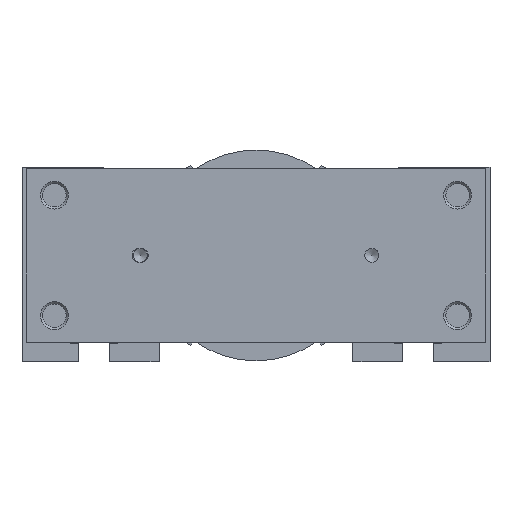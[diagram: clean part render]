
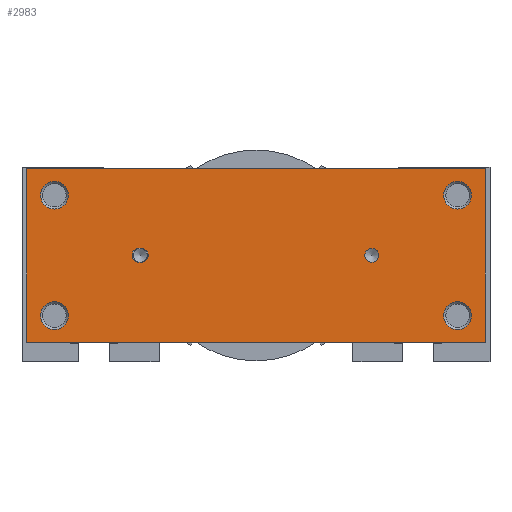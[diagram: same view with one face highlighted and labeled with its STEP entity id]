
A CAD part, left-side view. The second image highlights one B-rep face of the part: STEP entity #2983.
In plain terms, the highlighted planar face has unit normal (-1, 0, 0) as drawn and (0, 0, 1) by its records, which use the part's own axes.
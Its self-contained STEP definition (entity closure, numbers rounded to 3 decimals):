
#336=LINE('',#4946,#564);
#340=LINE('',#4955,#568);
#343=LINE('',#4961,#571);
#346=LINE('',#4967,#574);
#348=LINE('',#4998,#576);
#349=LINE('',#5002,#577);
#564=VECTOR('',#4073,1000.);
#568=VECTOR('',#4079,1000.);
#571=VECTOR('',#4084,1000.);
#574=VECTOR('',#4089,1000.);
#576=VECTOR('',#4121,1000.);
#577=VECTOR('',#4124,1000.);
#1211=ORIENTED_EDGE('',*,*,#1647,.F.);
#1212=ORIENTED_EDGE('',*,*,#1648,.F.);
#1213=ORIENTED_EDGE('',*,*,#1649,.F.);
#1214=ORIENTED_EDGE('',*,*,#1650,.F.);
#1215=ORIENTED_EDGE('',*,*,#1651,.F.);
#1216=ORIENTED_EDGE('',*,*,#1652,.F.);
#1217=ORIENTED_EDGE('',*,*,#1653,.F.);
#1218=ORIENTED_EDGE('',*,*,#1654,.F.);
#1219=ORIENTED_EDGE('',*,*,#1655,.F.);
#1220=ORIENTED_EDGE('',*,*,#1628,.T.);
#1221=ORIENTED_EDGE('',*,*,#1632,.T.);
#1222=ORIENTED_EDGE('',*,*,#1635,.T.);
#1223=ORIENTED_EDGE('',*,*,#1638,.T.);
#1628=EDGE_CURVE('',#1931,#1932,#336,.T.);
#1632=EDGE_CURVE('',#1932,#1935,#340,.T.);
#1635=EDGE_CURVE('',#1935,#1937,#343,.T.);
#1638=EDGE_CURVE('',#1937,#1931,#346,.T.);
#1647=EDGE_CURVE('',#1946,#1946,#2103,.T.);
#1648=EDGE_CURVE('',#1947,#1947,#2104,.T.);
#1649=EDGE_CURVE('',#1948,#1948,#2105,.T.);
#1650=EDGE_CURVE('',#1949,#1949,#2106,.T.);
#1651=EDGE_CURVE('',#1950,#1950,#2107,.T.);
#1652=EDGE_CURVE('',#1951,#1952,#2108,.T.);
#1653=EDGE_CURVE('',#1953,#1951,#348,.T.);
#1654=EDGE_CURVE('',#1954,#1953,#2109,.T.);
#1655=EDGE_CURVE('',#1952,#1954,#349,.T.);
#1931=VERTEX_POINT('',#4947);
#1932=VERTEX_POINT('',#4948);
#1935=VERTEX_POINT('',#4956);
#1937=VERTEX_POINT('',#4962);
#1946=VERTEX_POINT('',#4986);
#1947=VERTEX_POINT('',#4988);
#1948=VERTEX_POINT('',#4990);
#1949=VERTEX_POINT('',#4992);
#1950=VERTEX_POINT('',#4994);
#1951=VERTEX_POINT('',#4996);
#1952=VERTEX_POINT('',#4997);
#1953=VERTEX_POINT('',#4999);
#1954=VERTEX_POINT('',#5001);
#2103=CIRCLE('',#3320,6.);
#2104=CIRCLE('',#3321,6.);
#2105=CIRCLE('',#3322,6.);
#2106=CIRCLE('',#3323,6.);
#2107=CIRCLE('',#3324,3.);
#2108=CIRCLE('',#3325,3.);
#2109=CIRCLE('',#3326,3.);
#2359=EDGE_LOOP('',(#1211));
#2360=EDGE_LOOP('',(#1212));
#2361=EDGE_LOOP('',(#1213));
#2362=EDGE_LOOP('',(#1214));
#2363=EDGE_LOOP('',(#1215));
#2364=EDGE_LOOP('',(#1216,#1217,#1218,#1219));
#2365=EDGE_LOOP('',(#1220,#1221,#1222,#1223));
#2669=FACE_BOUND('',#2359,.T.);
#2670=FACE_BOUND('',#2360,.T.);
#2671=FACE_BOUND('',#2361,.T.);
#2672=FACE_BOUND('',#2362,.T.);
#2673=FACE_BOUND('',#2363,.T.);
#2674=FACE_BOUND('',#2364,.T.);
#2675=FACE_BOUND('',#2365,.T.);
#2820=PLANE('',#3319);
#2983=ADVANCED_FACE('',(#2669,#2670,#2671,#2672,#2673,#2674,#2675),#2820,
 .T.);
#3319=AXIS2_PLACEMENT_3D('',#4984,#4107,#4108);
#3320=AXIS2_PLACEMENT_3D('',#4985,#4109,#4110);
#3321=AXIS2_PLACEMENT_3D('',#4987,#4111,#4112);
#3322=AXIS2_PLACEMENT_3D('',#4989,#4113,#4114);
#3323=AXIS2_PLACEMENT_3D('',#4991,#4115,#4116);
#3324=AXIS2_PLACEMENT_3D('',#4993,#4117,#4118);
#3325=AXIS2_PLACEMENT_3D('',#4995,#4119,#4120);
#3326=AXIS2_PLACEMENT_3D('',#5000,#4122,#4123);
#4073=DIRECTION('',(0.,-1.,0.));
#4079=DIRECTION('',(1.,0.,0.));
#4084=DIRECTION('',(0.,1.,0.));
#4089=DIRECTION('',(-1.,0.,0.));
#4107=DIRECTION('',(0.,0.,1.));
#4108=DIRECTION('',(1.,0.,0.));
#4109=DIRECTION('',(0.,0.,1.));
#4110=DIRECTION('',(1.,0.,0.));
#4111=DIRECTION('',(0.,0.,1.));
#4112=DIRECTION('',(1.,0.,0.));
#4113=DIRECTION('',(0.,0.,1.));
#4114=DIRECTION('',(1.,0.,0.));
#4115=DIRECTION('',(0.,0.,1.));
#4116=DIRECTION('',(1.,0.,0.));
#4117=DIRECTION('',(0.,0.,1.));
#4118=DIRECTION('',(1.,0.,0.));
#4119=DIRECTION('',(0.,0.,1.));
#4120=DIRECTION('',(1.,0.,0.));
#4121=DIRECTION('',(0.,1.,0.));
#4122=DIRECTION('',(0.,0.,1.));
#4123=DIRECTION('',(1.,0.,0.));
#4124=DIRECTION('',(0.,-1.,0.));
#4946=CARTESIAN_POINT('',(-37.5,99.,40.));
#4947=CARTESIAN_POINT('',(-37.5,99.,40.));
#4948=CARTESIAN_POINT('',(-37.5,-99.,40.));
#4955=CARTESIAN_POINT('',(-37.5,-99.,40.));
#4956=CARTESIAN_POINT('',(37.5,-99.,40.));
#4961=CARTESIAN_POINT('',(37.5,-99.,40.));
#4962=CARTESIAN_POINT('',(37.5,99.,40.));
#4967=CARTESIAN_POINT('',(37.5,99.,40.));
#4984=CARTESIAN_POINT('',(0.,0.,40.));
#4985=CARTESIAN_POINT('',(-26.,87.,40.));
#4986=CARTESIAN_POINT('',(-20.,87.,40.));
#4987=CARTESIAN_POINT('',(26.,87.,40.));
#4988=CARTESIAN_POINT('',(32.,87.,40.));
#4989=CARTESIAN_POINT('',(-26.,-87.,40.));
#4990=CARTESIAN_POINT('',(-20.,-87.,40.));
#4991=CARTESIAN_POINT('',(26.,-87.,40.));
#4992=CARTESIAN_POINT('',(32.,-87.,40.));
#4993=CARTESIAN_POINT('',(0.,-50.,40.));
#4994=CARTESIAN_POINT('',(3.,-50.,40.));
#4995=CARTESIAN_POINT('',(0.,50.5,40.));
#4996=CARTESIAN_POINT('',(3.,50.5,40.));
#4997=CARTESIAN_POINT('',(-3.,50.5,40.));
#4998=CARTESIAN_POINT('',(3.,49.5,40.));
#4999=CARTESIAN_POINT('',(3.,49.5,40.));
#5000=CARTESIAN_POINT('',(0.,49.5,40.));
#5001=CARTESIAN_POINT('',(-3.,49.5,40.));
#5002=CARTESIAN_POINT('',(-3.,50.5,40.));
